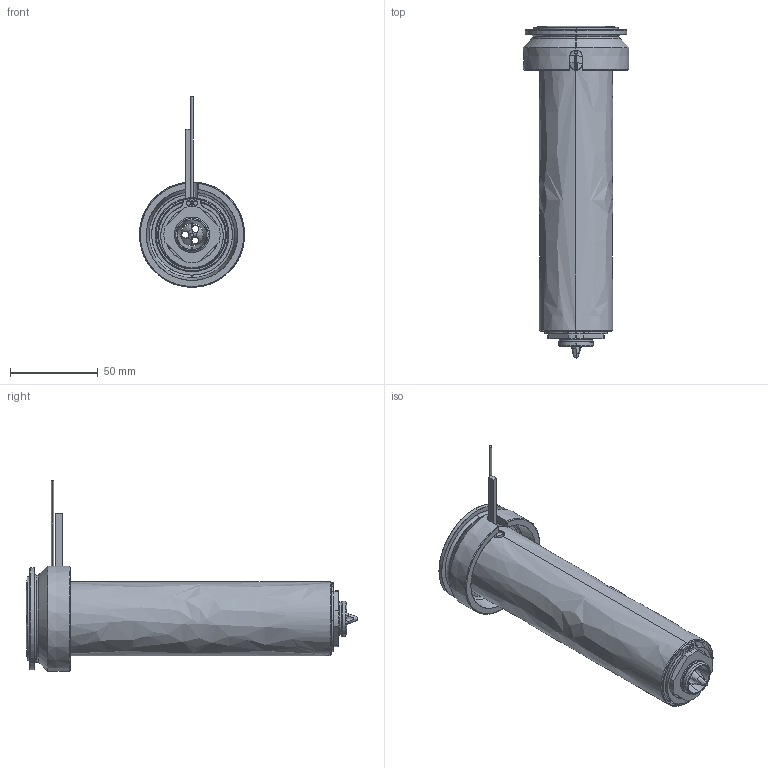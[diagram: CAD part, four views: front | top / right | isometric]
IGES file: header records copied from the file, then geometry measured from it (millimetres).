
Start section: SolidWorks IGES file using analytic representation for surfaces
Global section: file name: C:\Documents and Settings\ws-20\Desktop\TEM\UGEP6007-M-A-1 [Øf-1.9 ØC-16].IGS; native system: SolidWorks 2012; preprocessor: SolidWorks 2012; author: ws-20; date: 120427.094207; units: millimetre
Bounding box: 60 x 189.05 x 108.65 mm (x, y, z)
Surface area: 88901.6 mm2 (no closed solid volume)
Topology: 0 solids, 0 shells, 128 faces, 2311 edges, 2311 vertices
Faces by surface type: revolution 82, bspline 46
